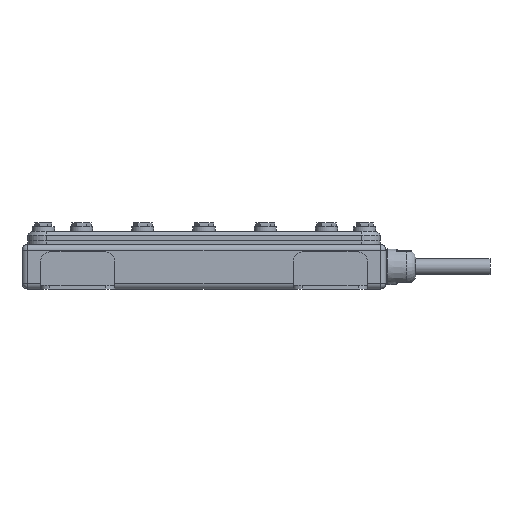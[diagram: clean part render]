
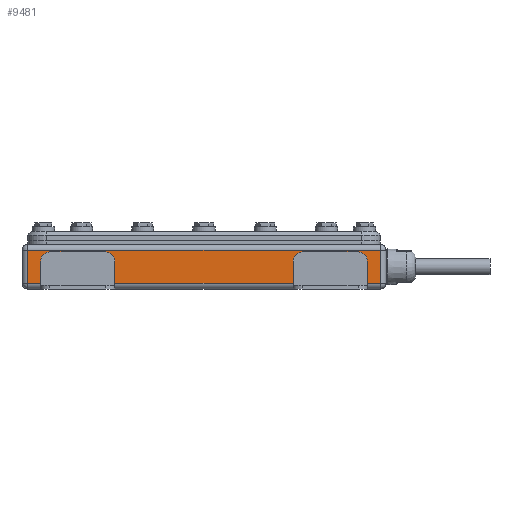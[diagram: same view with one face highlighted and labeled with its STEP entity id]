
A CAD part, front view. The second image highlights one B-rep face of the part: STEP entity #9481.
In plain terms, the highlighted planar face has unit normal (0, -1, 0).
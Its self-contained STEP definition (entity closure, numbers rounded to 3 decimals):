
#29 = DIRECTION ( 'NONE',  ( 0., 0., 1. ) ) ;
#30 = LINE ( 'NONE', #14806, #2916 ) ;
#100 = LINE ( 'NONE', #4637, #6081 ) ;
#197 = ORIENTED_EDGE ( 'NONE', *, *, #6652, .T. ) ;
#365 = CARTESIAN_POINT ( 'NONE',  ( 48., -223., 15. ) ) ;
#396 = EDGE_CURVE ( 'NONE', #1066, #3718, #1865, .T. ) ;
#508 = VECTOR ( 'NONE', #6702, 1000. ) ;
#912 = CARTESIAN_POINT ( 'NONE',  ( 88., -223., 3. ) ) ;
#1066 = VERTEX_POINT ( 'NONE', #2345 ) ;
#1165 = ORIENTED_EDGE ( 'NONE', *, *, #2735, .F. ) ;
#1207 = VERTEX_POINT ( 'NONE', #12129 ) ;
#1392 = DIRECTION ( 'NONE',  ( 0., 0., 1. ) ) ;
#1562 = VERTEX_POINT ( 'NONE', #912 ) ;
#1753 = AXIS2_PLACEMENT_3D ( 'NONE', #1798, #5355, #4079 ) ;
#1798 = CARTESIAN_POINT ( 'NONE',  ( -83., -223., 15. ) ) ;
#1865 = CIRCLE ( 'NONE', #10341, 5. ) ;
#1932 = CARTESIAN_POINT ( 'NONE',  ( 88., -223., 15. ) ) ;
#1959 = DIRECTION ( 'NONE',  ( 0., 0., 1. ) ) ;
#2176 = DIRECTION ( 'NONE',  ( 1., 0., 0. ) ) ;
#2187 = ORIENTED_EDGE ( 'NONE', *, *, #396, .T. ) ;
#2220 = LINE ( 'NONE', #14805, #13489 ) ;
#2248 = EDGE_CURVE ( 'NONE', #2883, #1207, #14670, .T. ) ;
#2330 = VERTEX_POINT ( 'NONE', #365 ) ;
#2345 = CARTESIAN_POINT ( 'NONE',  ( -53., -223., 20. ) ) ;
#2453 = VERTEX_POINT ( 'NONE', #10818 ) ;
#2538 = DIRECTION ( 'NONE',  ( 1., 0., 0. ) ) ;
#2662 = VECTOR ( 'NONE', #2176, 1000. ) ;
#2716 = VECTOR ( 'NONE', #1959, 1000. ) ;
#2735 = EDGE_CURVE ( 'NONE', #2453, #11583, #3781, .T. ) ;
#2742 = DIRECTION ( 'NONE',  ( 0., 0., 1. ) ) ;
#2883 = VERTEX_POINT ( 'NONE', #4587 ) ;
#2916 = VECTOR ( 'NONE', #10490, 1000. ) ;
#3000 = PLANE ( 'NONE',  #3118 ) ;
#3118 = AXIS2_PLACEMENT_3D ( 'NONE', #3910, #10954, #6449 ) ;
#3149 = ORIENTED_EDGE ( 'NONE', *, *, #10377, .T. ) ;
#3155 = LINE ( 'NONE', #13471, #3896 ) ;
#3214 = CARTESIAN_POINT ( 'NONE',  ( 83., -223., 15. ) ) ;
#3376 = VECTOR ( 'NONE', #10126, 1000. ) ;
#3397 = CARTESIAN_POINT ( 'NONE',  ( 98., -223., 3. ) ) ;
#3718 = VERTEX_POINT ( 'NONE', #14787 ) ;
#3781 = LINE ( 'NONE', #9985, #3376 ) ;
#3808 = LINE ( 'NONE', #9503, #10081 ) ;
#3896 = VECTOR ( 'NONE', #5268, 1000. ) ;
#3910 = CARTESIAN_POINT ( 'NONE',  ( -98., -223., 24. ) ) ;
#3912 = DIRECTION ( 'NONE',  ( 0., 1., 0. ) ) ;
#4050 = CARTESIAN_POINT ( 'NONE',  ( -48., -223., 3. ) ) ;
#4079 = DIRECTION ( 'NONE',  ( 0., 0., 1. ) ) ;
#4292 = EDGE_CURVE ( 'NONE', #12872, #12808, #14918, .T. ) ;
#4442 = ORIENTED_EDGE ( 'NONE', *, *, #4292, .T. ) ;
#4587 = CARTESIAN_POINT ( 'NONE',  ( -88., -223., 3. ) ) ;
#4637 = CARTESIAN_POINT ( 'NONE',  ( -48., -223., 0. ) ) ;
#4715 = DIRECTION ( 'NONE',  ( 0., 0., 1. ) ) ;
#4823 = EDGE_LOOP ( 'NONE', ( #9825, #3149, #4442, #13899, #5619, #197, #11503, #14422, #13537, #2187, #9065, #8935, #14442, #8818, #1165, #12351 ) ) ;
#5117 = DIRECTION ( 'NONE',  ( 0., 0., 1. ) ) ;
#5268 = DIRECTION ( 'NONE',  ( 1., 0., 0. ) ) ;
#5355 = DIRECTION ( 'NONE',  ( 0., 1., 0. ) ) ;
#5573 = CARTESIAN_POINT ( 'NONE',  ( 48., -223., 3. ) ) ;
#5580 = LINE ( 'NONE', #12160, #12891 ) ;
#5619 = ORIENTED_EDGE ( 'NONE', *, *, #13206, .T. ) ;
#6081 = VECTOR ( 'NONE', #4715, 1000. ) ;
#6113 = CARTESIAN_POINT ( 'NONE',  ( 53., -223., 20. ) ) ;
#6364 = VERTEX_POINT ( 'NONE', #4050 ) ;
#6369 = DIRECTION ( 'NONE',  ( 0., 0., -1. ) ) ;
#6433 = EDGE_CURVE ( 'NONE', #2453, #13968, #11537, .T. ) ;
#6449 = DIRECTION ( 'NONE',  ( 0., 0., 1. ) ) ;
#6459 = EDGE_CURVE ( 'NONE', #11516, #2330, #2220, .T. ) ;
#6652 = EDGE_CURVE ( 'NONE', #10074, #2883, #3808, .T. ) ;
#6702 = DIRECTION ( 'NONE',  ( 0., 0., 1. ) ) ;
#7001 = DIRECTION ( 'NONE',  ( 0., 1., 0. ) ) ;
#7060 = LINE ( 'NONE', #9333, #10465 ) ;
#7089 = CARTESIAN_POINT ( 'NONE',  ( 53., -223., 15. ) ) ;
#7187 = CARTESIAN_POINT ( 'NONE',  ( -98., -223., 21. ) ) ;
#7593 = DIRECTION ( 'NONE',  ( 0., 0., 1. ) ) ;
#7808 = DIRECTION ( 'NONE',  ( 0., 1., 0. ) ) ;
#8818 = ORIENTED_EDGE ( 'NONE', *, *, #13893, .T. ) ;
#8935 = ORIENTED_EDGE ( 'NONE', *, *, #11733, .T. ) ;
#9003 = EDGE_CURVE ( 'NONE', #12808, #10928, #10917, .T. ) ;
#9065 = ORIENTED_EDGE ( 'NONE', *, *, #14265, .F. ) ;
#9333 = CARTESIAN_POINT ( 'NONE',  ( 88., -223., 0. ) ) ;
#9481 = ADVANCED_FACE ( 'NONE', ( #9749 ), #3000, .F. ) ;
#9503 = CARTESIAN_POINT ( 'NONE',  ( -88., -223., 3. ) ) ;
#9554 = DIRECTION ( 'NONE',  ( -1., 0., 0. ) ) ;
#9749 = FACE_OUTER_BOUND ( 'NONE', #4823, .T. ) ;
#9825 = ORIENTED_EDGE ( 'NONE', *, *, #14270, .F. ) ;
#9985 = CARTESIAN_POINT ( 'NONE',  ( 88., -223., 20. ) ) ;
#9997 = VERTEX_POINT ( 'NONE', #14591 ) ;
#10074 = VERTEX_POINT ( 'NONE', #10266 ) ;
#10081 = VECTOR ( 'NONE', #2538, 1000. ) ;
#10126 = DIRECTION ( 'NONE',  ( -1., 0., 0. ) ) ;
#10216 = LINE ( 'NONE', #3397, #2662 ) ;
#10266 = CARTESIAN_POINT ( 'NONE',  ( -95., -223., 3. ) ) ;
#10341 = AXIS2_PLACEMENT_3D ( 'NONE', #13022, #7001, #1392 ) ;
#10377 = EDGE_CURVE ( 'NONE', #1562, #12872, #10216, .T. ) ;
#10465 = VECTOR ( 'NONE', #2742, 1000. ) ;
#10490 = DIRECTION ( 'NONE',  ( -1., 0., 0. ) ) ;
#10818 = CARTESIAN_POINT ( 'NONE',  ( 83., -223., 20. ) ) ;
#10917 = LINE ( 'NONE', #7187, #14238 ) ;
#10928 = VERTEX_POINT ( 'NONE', #11542 ) ;
#10930 = EDGE_CURVE ( 'NONE', #1066, #9997, #30, .T. ) ;
#10954 = DIRECTION ( 'NONE',  ( 0., 1., 0. ) ) ;
#11165 = CARTESIAN_POINT ( 'NONE',  ( 95., -223., 21. ) ) ;
#11503 = ORIENTED_EDGE ( 'NONE', *, *, #2248, .T. ) ;
#11516 = VERTEX_POINT ( 'NONE', #5573 ) ;
#11537 = CIRCLE ( 'NONE', #14675, 5. ) ;
#11542 = CARTESIAN_POINT ( 'NONE',  ( -95., -223., 21. ) ) ;
#11583 = VERTEX_POINT ( 'NONE', #6113 ) ;
#11733 = EDGE_CURVE ( 'NONE', #6364, #11516, #3155, .T. ) ;
#11929 = CIRCLE ( 'NONE', #1753, 5. ) ;
#12129 = CARTESIAN_POINT ( 'NONE',  ( -88., -223., 15. ) ) ;
#12160 = CARTESIAN_POINT ( 'NONE',  ( -95., -223., 24. ) ) ;
#12351 = ORIENTED_EDGE ( 'NONE', *, *, #6433, .T. ) ;
#12808 = VERTEX_POINT ( 'NONE', #11165 ) ;
#12872 = VERTEX_POINT ( 'NONE', #14872 ) ;
#12891 = VECTOR ( 'NONE', #6369, 1000. ) ;
#13022 = CARTESIAN_POINT ( 'NONE',  ( -53., -223., 15. ) ) ;
#13206 = EDGE_CURVE ( 'NONE', #10928, #10074, #5580, .T. ) ;
#13471 = CARTESIAN_POINT ( 'NONE',  ( 48., -223., 3. ) ) ;
#13489 = VECTOR ( 'NONE', #29, 1000. ) ;
#13537 = ORIENTED_EDGE ( 'NONE', *, *, #10930, .F. ) ;
#13699 = CARTESIAN_POINT ( 'NONE',  ( -88., -223., 0. ) ) ;
#13715 = CARTESIAN_POINT ( 'NONE',  ( 95., -223., 24. ) ) ;
#13893 = EDGE_CURVE ( 'NONE', #2330, #11583, #14098, .T. ) ;
#13899 = ORIENTED_EDGE ( 'NONE', *, *, #9003, .T. ) ;
#13968 = VERTEX_POINT ( 'NONE', #1932 ) ;
#14098 = CIRCLE ( 'NONE', #14811, 5. ) ;
#14238 = VECTOR ( 'NONE', #9554, 1000. ) ;
#14265 = EDGE_CURVE ( 'NONE', #6364, #3718, #100, .T. ) ;
#14270 = EDGE_CURVE ( 'NONE', #1562, #13968, #7060, .T. ) ;
#14422 = ORIENTED_EDGE ( 'NONE', *, *, #14428, .T. ) ;
#14428 = EDGE_CURVE ( 'NONE', #1207, #9997, #11929, .T. ) ;
#14442 = ORIENTED_EDGE ( 'NONE', *, *, #6459, .T. ) ;
#14591 = CARTESIAN_POINT ( 'NONE',  ( -83., -223., 20. ) ) ;
#14670 = LINE ( 'NONE', #13699, #508 ) ;
#14675 = AXIS2_PLACEMENT_3D ( 'NONE', #3214, #7808, #7593 ) ;
#14787 = CARTESIAN_POINT ( 'NONE',  ( -48., -223., 15. ) ) ;
#14805 = CARTESIAN_POINT ( 'NONE',  ( 48., -223., 0. ) ) ;
#14806 = CARTESIAN_POINT ( 'NONE',  ( -88., -223., 20. ) ) ;
#14811 = AXIS2_PLACEMENT_3D ( 'NONE', #7089, #3912, #5117 ) ;
#14872 = CARTESIAN_POINT ( 'NONE',  ( 95., -223., 3. ) ) ;
#14918 = LINE ( 'NONE', #13715, #2716 ) ;
